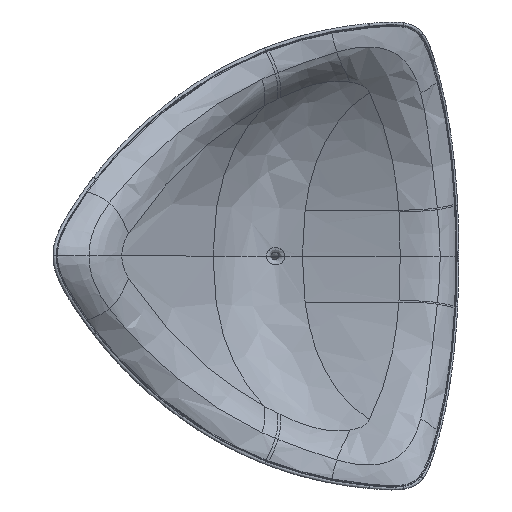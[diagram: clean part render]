
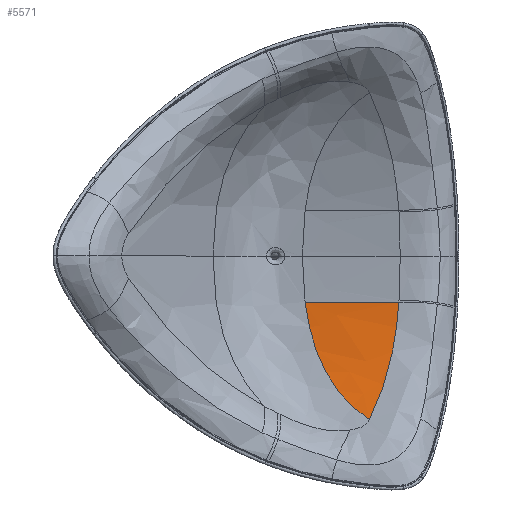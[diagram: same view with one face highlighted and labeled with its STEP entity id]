
A CAD part, top view. The second image highlights one B-rep face of the part: STEP entity #5571.
In plain terms, the highlighted free-form (B-spline) face has degree [5, 5] with [6, 6] control points.
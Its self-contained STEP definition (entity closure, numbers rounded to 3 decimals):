
#1198=CARTESIAN_POINT('Vertex',(-67.419,-100.,335.822)) ;
#1202=CARTESIAN_POINT('Control Point',(-131.73,-356.458,408.528)) ;
#1203=CARTESIAN_POINT('Control Point',(-129.482,-351.931,406.2)) ;
#1204=CARTESIAN_POINT('Control Point',(-127.279,-347.362,403.925)) ;
#1205=CARTESIAN_POINT('Control Point',(-125.112,-342.737,401.673)) ;
#1206=CARTESIAN_POINT('Control Point',(-117.883,-326.837,394.156)) ;
#1207=CARTESIAN_POINT('Control Point',(-111.203,-310.515,387.142)) ;
#1208=CARTESIAN_POINT('Control Point',(-106.749,-298.736,382.431)) ;
#1209=CARTESIAN_POINT('Control Point',(-98.75,-275.745,373.877)) ;
#1210=CARTESIAN_POINT('Control Point',(-91.826,-252.067,366.271)) ;
#1211=CARTESIAN_POINT('Control Point',(-88.753,-240.547,362.838)) ;
#1212=CARTESIAN_POINT('Control Point',(-82.498,-214.691,355.71)) ;
#1213=CARTESIAN_POINT('Control Point',(-77.469,-188.173,349.649)) ;
#1214=CARTESIAN_POINT('Control Point',(-75.073,-173.43,346.64)) ;
#1215=CARTESIAN_POINT('Control Point',(-72.205,-152.509,342.865)) ;
#1216=CARTESIAN_POINT('Control Point',(-69.979,-131.287,339.711)) ;
#1217=CARTESIAN_POINT('Control Point',(-69.391,-125.168,338.857)) ;
#1218=CARTESIAN_POINT('Control Point',(-68.629,-116.472,337.719)) ;
#1219=CARTESIAN_POINT('Control Point',(-67.961,-107.732,336.683)) ;
#1220=CARTESIAN_POINT('Control Point',(-67.773,-105.158,336.387)) ;
#1221=CARTESIAN_POINT('Control Point',(-67.592,-102.581,336.1)) ;
#1222=CARTESIAN_POINT('Control Point',(-67.419,-100.,335.822)) ;
#1223=CARTESIAN_POINT('Vertex',(-131.73,-356.459,408.527)) ;
#1802=CARTESIAN_POINT('Vertex',(-271.812,-100.,298.576)) ;
#1806=CARTESIAN_POINT('Control Point',(-271.812,-100.,298.576)) ;
#1807=CARTESIAN_POINT('Control Point',(-270.124,-100.,298.887)) ;
#1808=CARTESIAN_POINT('Control Point',(-268.435,-100.,299.197)) ;
#1809=CARTESIAN_POINT('Control Point',(-266.747,-100.,299.508)) ;
#1810=CARTESIAN_POINT('Control Point',(-257.683,-100.,301.176)) ;
#1811=CARTESIAN_POINT('Control Point',(-248.62,-100.,302.843)) ;
#1812=CARTESIAN_POINT('Control Point',(-241.245,-100.,304.2)) ;
#1813=CARTESIAN_POINT('Control Point',(-202.064,-100.,311.393)) ;
#1814=CARTESIAN_POINT('Control Point',(-162.879,-100.,318.556)) ;
#1815=CARTESIAN_POINT('Control Point',(-131.062,-100.,324.33)) ;
#1816=CARTESIAN_POINT('Control Point',(-99.24,-100.,330.075)) ;
#1817=CARTESIAN_POINT('Control Point',(-67.419,-100.,335.822)) ;
#5268=CARTESIAN_POINT('Control Point',(-271.812,-100.,298.576)) ;
#5269=CARTESIAN_POINT('Control Point',(-269.329,-119.462,300.922)) ;
#5270=CARTESIAN_POINT('Control Point',(-266.113,-138.748,303.906)) ;
#5271=CARTESIAN_POINT('Control Point',(-262.115,-157.493,307.544)) ;
#5272=CARTESIAN_POINT('Control Point',(-253.469,-190.215,315.243)) ;
#5273=CARTESIAN_POINT('Control Point',(-241.733,-221.373,325.254)) ;
#5274=CARTESIAN_POINT('Control Point',(-235.928,-234.661,330.114)) ;
#5275=CARTESIAN_POINT('Control Point',(-224.475,-257.499,339.513)) ;
#5276=CARTESIAN_POINT('Control Point',(-210.967,-278.679,350.206)) ;
#5277=CARTESIAN_POINT('Control Point',(-204.62,-287.638,355.152)) ;
#5278=CARTESIAN_POINT('Control Point',(-192.682,-302.898,364.309)) ;
#5279=CARTESIAN_POINT('Control Point',(-179.641,-316.914,374.053)) ;
#5280=CARTESIAN_POINT('Control Point',(-173.695,-322.837,378.447)) ;
#5281=CARTESIAN_POINT('Control Point',(-162.065,-333.612,386.949)) ;
#5282=CARTESIAN_POINT('Control Point',(-149.852,-343.496,395.716)) ;
#5283=CARTESIAN_POINT('Control Point',(-143.92,-348.003,399.94)) ;
#5284=CARTESIAN_POINT('Control Point',(-137.875,-352.322,404.213)) ;
#5285=CARTESIAN_POINT('Control Point',(-131.73,-356.459,408.527)) ;
#5530=CARTESIAN_POINT('Control Point',(-97.388,230.838,345.859)) ;
#5531=CARTESIAN_POINT('Control Point',(-171.692,171.435,318.246)) ;
#5532=CARTESIAN_POINT('Control Point',(-248.137,114.957,300.73)) ;
#5533=CARTESIAN_POINT('Control Point',(-324.838,58.828,284.418)) ;
#5534=CARTESIAN_POINT('Control Point',(-401.827,3.093,269.47)) ;
#5535=CARTESIAN_POINT('Control Point',(-479.592,-51.584,258.174)) ;
#5536=CARTESIAN_POINT('Control Point',(-22.786,116.351,344.109)) ;
#5537=CARTESIAN_POINT('Control Point',(-97.281,57.209,317.399)) ;
#5538=CARTESIAN_POINT('Control Point',(-175.131,2.649,306.504)) ;
#5539=CARTESIAN_POINT('Control Point',(-252.06,-53.168,291.271)) ;
#5540=CARTESIAN_POINT('Control Point',(-330.416,-107.038,282.761)) ;
#5541=CARTESIAN_POINT('Control Point',(-408.73,-160.963,274.059)) ;
#5542=CARTESIAN_POINT('Control Point',(52.417,1.041,339.521)) ;
#5543=CARTESIAN_POINT('Control Point',(-25.873,-52.917,330.705)) ;
#5544=CARTESIAN_POINT('Control Point',(-103.098,-108.331,316.864)) ;
#5545=CARTESIAN_POINT('Control Point',(-181.987,-161.471,310.873)) ;
#5546=CARTESIAN_POINT('Control Point',(-260.781,-214.741,304.432)) ;
#5547=CARTESIAN_POINT('Control Point',(-340.412,-266.868,301.939)) ;
#5548=CARTESIAN_POINT('Control Point',(123.528,-108.679,354.23)) ;
#5549=CARTESIAN_POINT('Control Point',(45.058,-162.391,346.265)) ;
#5550=CARTESIAN_POINT('Control Point',(-35.517,-213.229,348.219)) ;
#5551=CARTESIAN_POINT('Control Point',(-115.288,-265.166,346.382)) ;
#5552=CARTESIAN_POINT('Control Point',(-196.397,-315.274,350.857)) ;
#5553=CARTESIAN_POINT('Control Point',(-277.166,-365.847,353.73)) ;
#5554=CARTESIAN_POINT('Control Point',(188.425,-209.912,398.237)) ;
#5555=CARTESIAN_POINT('Control Point',(108.476,-261.604,397.245)) ;
#5556=CARTESIAN_POINT('Control Point',(29.246,-314.28,392.856)) ;
#5557=CARTESIAN_POINT('Control Point',(-53.241,-362.507,403.827)) ;
#5558=CARTESIAN_POINT('Control Point',(-134.913,-411.846,410.958)) ;
#5559=CARTESIAN_POINT('Control Point',(-218.148,-459.052,425.454)) ;
#5560=CARTESIAN_POINT('Control Point',(246.016,-301.168,476.693)) ;
#5561=CARTESIAN_POINT('Control Point',(163.736,-349.676,486.69)) ;
#5562=CARTESIAN_POINT('Control Point',(79.605,-395.658,505.413)) ;
#5563=CARTESIAN_POINT('Control Point',(-3.854,-442.557,520.967)) ;
#5564=CARTESIAN_POINT('Control Point',(-90.826,-484.659,553.084)) ;
#5565=CARTESIAN_POINT('Control Point',(-178.437,-525.888,588.214)) ;
#5567=ORIENTED_EDGE('',*,*,#1225,.T.) ;
#5568=ORIENTED_EDGE('',*,*,#1818,.T.) ;
#5569=ORIENTED_EDGE('',*,*,#5286,.T.) ;
#5571=ADVANCED_FACE('Poltrona-VELA',(#5570),#5529,.F.) ;
#1201=B_SPLINE_CURVE_WITH_KNOTS('',5,(#1202,#1203,#1204,#1205,#1206,#1207,#1208,#1209,#1210,#1211,#1212,#1213,#1214,#1215,#1216,#1217,#1218,#1219,#1220,#1221,#1222),.UNSPECIFIED.,.F.,.U.,(6,3,3,3,3,3,6),(0.,39.404,134.998,223.197,330.643,373.904,391.924),.UNSPECIFIED.) ;
#1805=B_SPLINE_CURVE_WITH_KNOTS('',5,(#1806,#1807,#1808,#1809,#1810,#1811,#1812,#1813,#1814,#1815,#1816,#1817),.UNSPECIFIED.,.F.,.U.,(6,3,3,6),(-159.455,-150.871,-113.377,48.304),.UNSPECIFIED.) ;
#5267=B_SPLINE_CURVE_WITH_KNOTS('',5,(#5268,#5269,#5270,#5271,#5272,#5273,#5274,#5275,#5276,#5277,#5278,#5279,#5280,#5281,#5282,#5283,#5284,#5285),.UNSPECIFIED.,.F.,.U.,(6,3,3,3,3,6),(110.707,220.725,308.53,378.467,433.778,483.959),.UNSPECIFIED.) ;
#5529=B_SPLINE_SURFACE_WITH_KNOTS('',5,5,((#5530,#5531,#5532,#5533,#5534,#5535),(#5536,#5537,#5538,#5539,#5540,#5541),(#5542,#5543,#5544,#5545,#5546,#5547),(#5548,#5549,#5550,#5551,#5552,#5553),(#5554,#5555,#5556,#5557,#5558,#5559),(#5560,#5561,#5562,#5563,#5564,#5565)),.UNSPECIFIED.,.F.,.F.,.U.,(6,6),(6,6),(-302.845,374.024),(-263.979,218.438),.UNSPECIFIED.) ;
#1225=EDGE_CURVE('',#1224,#1199,#1201,.T.) ;
#1818=EDGE_CURVE('',#1199,#1803,#1805,.F.) ;
#5286=EDGE_CURVE('',#1803,#1224,#5267,.T.) ;
#5566=EDGE_LOOP('',(#5567,#5568,#5569)) ;
#5570=FACE_OUTER_BOUND('',#5566,.T.) ;
#1199=VERTEX_POINT('',#1198) ;
#1224=VERTEX_POINT('',#1223) ;
#1803=VERTEX_POINT('',#1802) ;
